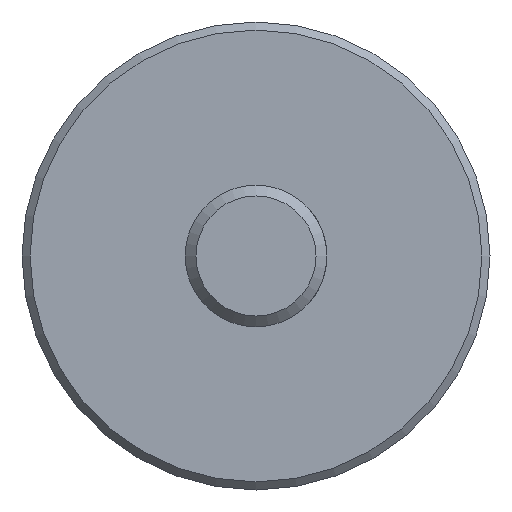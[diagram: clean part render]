
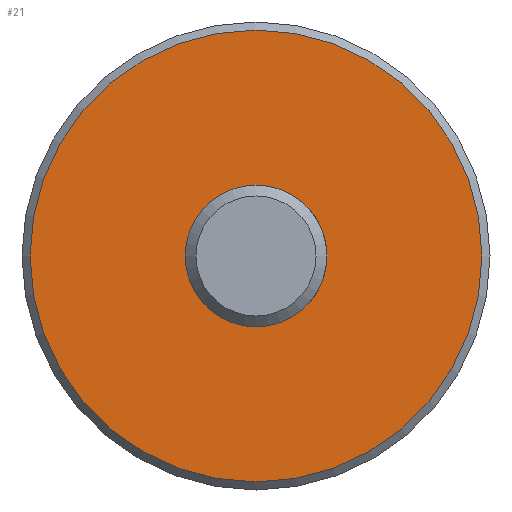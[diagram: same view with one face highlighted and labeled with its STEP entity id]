
A CAD part, front view. The second image highlights one B-rep face of the part: STEP entity #21.
In plain terms, the highlighted planar face has unit normal (0, -1, 0).
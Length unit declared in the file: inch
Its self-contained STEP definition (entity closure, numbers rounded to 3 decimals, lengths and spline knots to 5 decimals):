
#7 = CIRCLE ( 'NONE', #424, 0.3937 ) ;
#13 = EDGE_CURVE ( 'NONE', #37, #37, #543, .T. ) ;
#21 = ADVANCED_FACE ( 'NONE', ( #318, #88 ), #433, .F. ) ;
#27 = ORIENTED_EDGE ( 'NONE', *, *, #13, .F. ) ;
#35 = DIRECTION ( 'NONE',  ( 0., 1., 0. ) ) ;
#37 = VERTEX_POINT ( 'NONE', #269 ) ;
#43 = CARTESIAN_POINT ( 'NONE',  ( 0., 3.28, 0. ) ) ;
#60 = CARTESIAN_POINT ( 'NONE',  ( 0., 3.28, 0.3937 ) ) ;
#88 = FACE_BOUND ( 'NONE', #401, .T. ) ;
#92 = CARTESIAN_POINT ( 'NONE',  ( 0.3937, 3.28, 0. ) ) ;
#158 = AXIS2_PLACEMENT_3D ( 'NONE', #92, #35, #278 ) ;
#165 = ORIENTED_EDGE ( 'NONE', *, *, #323, .T. ) ;
#238 = EDGE_LOOP ( 'NONE', ( #27 ) ) ;
#267 = CARTESIAN_POINT ( 'NONE',  ( 0., 3.28, 0. ) ) ;
#269 = CARTESIAN_POINT ( 'NONE',  ( 0., 3.28, 1.255 ) ) ;
#278 = DIRECTION ( 'NONE',  ( 0., 0., 1. ) ) ;
#308 = DIRECTION ( 'NONE',  ( 0., 0., 1. ) ) ;
#318 = FACE_OUTER_BOUND ( 'NONE', #238, .T. ) ;
#323 = EDGE_CURVE ( 'NONE', #377, #377, #7, .T. ) ;
#355 = DIRECTION ( 'NONE',  ( 0., 0., 1. ) ) ;
#360 = DIRECTION ( 'NONE',  ( 0., 1., 0. ) ) ;
#377 = VERTEX_POINT ( 'NONE', #60 ) ;
#388 = DIRECTION ( 'NONE',  ( 0., 1., 0. ) ) ;
#401 = EDGE_LOOP ( 'NONE', ( #165 ) ) ;
#406 = AXIS2_PLACEMENT_3D ( 'NONE', #43, #360, #355 ) ;
#424 = AXIS2_PLACEMENT_3D ( 'NONE', #267, #388, #308 ) ;
#433 = PLANE ( 'NONE',  #158 ) ;
#543 = CIRCLE ( 'NONE', #406, 1.255 ) ;
